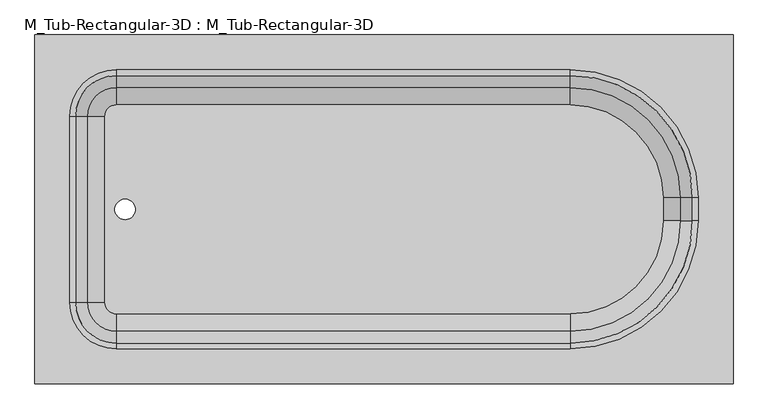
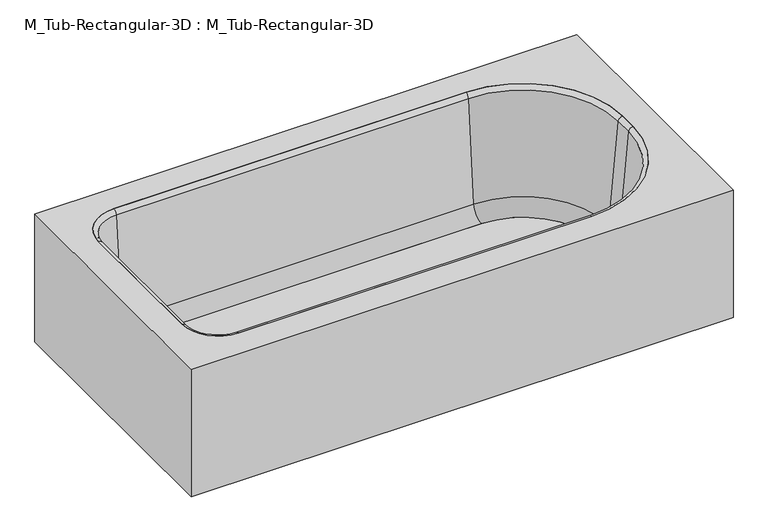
"""IFC4 building model written with IfcOpenShell, lengths in millimetres: flow terminal geometry, M_Tub-Rectangular-3D : M_Tub-Rectangular-3D."""

from ifc_helpers import new_model, si_unit, point, frame, frame_2d, origin, place, context, project, spatial, polyline, circle_curve, ellipse_curve, trimmed, segment, composite_curve, outline, extrude, source, transform, mapped, element, save
from ifc_brep_helpers import plane_surface, cylinder_surface, revolved_surface, advanced_brep


def m_tub_rectangular_3d_m_tub_rectangular_3d_c2020133(model_context):
    return source(origin(), model_context, "Body", "SolidModel", [
        advanced_brep(
        [(414.3970313, 937.0, 380.0), (-1110.6029687, 937.0, 380.0), (-1110.6029687, 175.0, 380.0), (414.3970313, 175.0, 380.0), (-932.8029687, 860.8, 380.0), (58.7970313, 860.8, 380.0), (338.1970313, 581.4, 380.0), (338.1970313, 530.6, 380.0), (58.7970313, 251.2, 380.0), (-932.8029687, 251.2, 380.0), (-1034.4029687, 352.8, 380.0), (-1034.4029687, 759.2, 380.0), (395.3470313, 917.95, 360.95), (395.3470313, 194.05, 360.95), (-1091.5529687, 194.05, 360.95), (-1091.5529687, 917.95, 360.95), (-932.8029687, 860.8, 360.95), (-1034.4029687, 759.2, 360.95), (-1034.4029687, 352.8, 360.95), (-932.8029687, 251.2, 360.95), (58.7970313, 251.2, 360.95), (338.1970313, 530.6, 360.95), (338.1970313, 581.4, 360.95), (58.7970313, 860.8, 360.95), (414.3970313, 937.0, 0.0), (-1110.6029687, 937.0, 0.0), (-1110.6029687, 175.0, 0.0), (414.3970313, 175.0, 0.0), (395.3470313, 917.95, 0.0), (-1091.5529687, 917.95, 0.0), (-1091.5529687, 194.05, 0.0), (395.3470313, 194.05, 0.0)],
        [
            (0, 1),
            (1, 2),
            (2, 3),
            (3, 0),
            (4, 5),
            (5, 6, circle_curve(frame((58.7970313, 581.4, 380.0), z_axis=(0.0, 0.0, -1.0), x_axis=(0.0, 1.0, 0.0)), 279.4)),
            (6, 7),
            (7, 8, circle_curve(frame((58.7970313, 530.6, 380.0), z_axis=(0.0, 0.0, -1.0), x_axis=(0.0, 1.0, 0.0)), 279.4)),
            (8, 9),
            (9, 10, circle_curve(frame((-932.8029687, 352.8, 380.0), z_axis=(0.0, 0.0, -1.0), x_axis=(0.0, 1.0, 0.0)), 101.6)),
            (10, 11),
            (11, 4, circle_curve(frame((-932.8029687, 759.2, 380.0), z_axis=(0.0, 0.0, -1.0), x_axis=(0.0, 1.0, 0.0)), 101.6)),
            (12, 13),
            (13, 14),
            (14, 15),
            (15, 12),
            (16, 17, circle_curve(frame((-932.8029687, 759.2, 360.95), z_axis=(0.0, 0.0, 1.0), x_axis=(0.0, 1.0, 0.0)), 101.6)),
            (17, 18),
            (18, 19, circle_curve(frame((-932.8029687, 352.8, 360.95), z_axis=(0.0, 0.0, 1.0), x_axis=(0.0, 1.0, 0.0)), 101.6)),
            (19, 20),
            (20, 21, circle_curve(frame((58.7970313, 530.6, 360.95), z_axis=(0.0, 0.0, 1.0), x_axis=(0.0, 1.0, 0.0)), 279.4)),
            (21, 22),
            (22, 23, circle_curve(frame((58.7970313, 581.4, 360.95), z_axis=(0.0, 0.0, 1.0), x_axis=(0.0, 1.0, 0.0)), 279.4)),
            (23, 16),
            (0, 24),
            (24, 25),
            (25, 1),
            (25, 26),
            (26, 2),
            (26, 27),
            (27, 3),
            (27, 24),
            (4, 16),
            (23, 5),
            (22, 6),
            (21, 7),
            (20, 8),
            (19, 9),
            (18, 10),
            (17, 11),
            (28, 29),
            (29, 30),
            (30, 31),
            (31, 28),
            (31, 13),
            (12, 28),
            (30, 14),
            (29, 15),
        ],
        [
            plane_surface(frame((-1110.6029687, 937.0, 380.0), z_axis=(0.0, 0.0, 1.0), x_axis=(-1.0, 0.0, 0.0))),
            plane_surface(frame((-1110.6029687, 937.0, 360.95), z_axis=(0.0, 0.0, -1.0), x_axis=(1.0, 0.0, 0.0))),
            plane_surface(frame((414.3970313, 937.0, 380.0), z_axis=(0.0, 1.0, 0.0), x_axis=(0.0, 0.0, -1.0))),
            plane_surface(frame((-1110.6029687, 937.0, 380.0), z_axis=(-1.0, 0.0, 0.0), x_axis=(0.0, 0.0, -1.0))),
            plane_surface(frame((-1110.6029687, 175.0, 380.0), z_axis=(0.0, -1.0, 0.0), x_axis=(0.0, 0.0, -1.0))),
            plane_surface(frame((414.3970313, 175.0, 380.0), z_axis=(1.0, 0.0, 0.0), x_axis=(0.0, 0.0, -1.0))),
            plane_surface(frame((-932.8029687, 860.8, 380.0), z_axis=(0.0, -1.0, 0.0), x_axis=(0.0, 0.0, -1.0))),
            revolved_surface(polyline([(58.7970313, 860.8, 360.95), (58.7970313, 860.8, 380.0)]), (58.7970313, 581.4, 380.0), (0.0, 0.0, -1.0)),
            plane_surface(frame((338.1970313, 581.4, 380.0), z_axis=(-1.0, 0.0, 0.0), x_axis=(0.0, 0.0, -1.0))),
            revolved_surface(polyline([(58.7970313, 810.0, 360.95), (58.7970313, 810.0, 380.0)]), (58.7970313, 530.6, 380.0), (0.0, 0.0, -1.0)),
            plane_surface(frame((58.7970313, 251.2, 380.0), z_axis=(0.0, 1.0, 0.0), x_axis=(0.0, 0.0, -1.0))),
            revolved_surface(polyline([(-932.8029687, 454.4, 360.95), (-932.8029687, 454.4, 380.0)]), (-932.8029687, 352.8, 380.0), (0.0, 0.0, -1.0)),
            plane_surface(frame((-1034.4029687, 352.8, 380.0), z_axis=(1.0, 0.0, 0.0), x_axis=(0.0, 0.0, -1.0))),
            revolved_surface(polyline([(-932.8029687, 860.8000000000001, 360.95), (-932.8029687, 860.8000000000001, 380.0)]), (-932.8029687, 759.2, 380.0), (0.0, 0.0, -1.0)),
            plane_surface(frame((-1110.6029687, 937.0, 0.0), z_axis=(0.0, 0.0, -1.0), x_axis=(1.0, 0.0, 0.0))),
            plane_surface(frame((395.3470313, 917.95, 360.95), z_axis=(-1.0, 0.0, 0.0), x_axis=(0.0, 0.0, -1.0))),
            plane_surface(frame((395.3470313, 194.05, 360.95), z_axis=(0.0, 1.0, 0.0), x_axis=(0.0, 0.0, -1.0))),
            plane_surface(frame((-1091.5529687, 194.05, 360.95), z_axis=(1.0, 0.0, 0.0), x_axis=(0.0, 0.0, -1.0))),
            plane_surface(frame((-1091.5529687, 917.95, 360.95), z_axis=(0.0, -1.0, 0.0), x_axis=(0.0, 0.0, -1.0))),
        ],
        [
            (0, [[1, 2, 3, 4], [5, 6, 7, 8, 9, 10, 11, 12]]),
            (1, [[13, 14, 15, 16], [17, 18, 19, 20, 21, 22, 23, 24]]),
            (2, [[-1, 25, 26, 27]]),
            (3, [[-2, -27, 28, 29]]),
            (4, [[-3, -29, 30, 31]]),
            (5, [[-25, -4, -31, 32]]),
            (6, [[-5, 33, -24, 34]]),
            (7, [[-6, -34, -23, 35]]),
            (8, [[-7, -35, -22, 36]]),
            (9, [[-8, -36, -21, 37]]),
            (10, [[-9, -37, -20, 38]]),
            (11, [[-10, -38, -19, 39]]),
            (12, [[-11, -39, -18, 40]]),
            (13, [[-12, -40, -17, -33]]),
            (14, [[-32, -30, -28, -26], [41, 42, 43, 44]]),
            (15, [[-44, 45, -13, 46]]),
            (16, [[-43, 47, -14, -45]]),
            (17, [[-42, 48, -15, -47]]),
            (18, [[-41, -46, -16, -48]]),
        ],
    ),
        extrude(outline(composite_curve([segment(trimmed(circle_curve(frame_2d((58.7970313, 581.4)), 202.7964741), [point((58.7970313, 784.1964741))], [point((261.5935054, 581.4))], False, "CARTESIAN"), True, "CONTINUOUS"), segment(polyline([(261.5935054, 581.4), (261.5935054, 530.6)]), True, "CONTINUOUS"), segment(trimmed(circle_curve(frame_2d((58.7970313, 530.6)), 202.7964741), [point((261.5935054, 530.6))], [point((58.7970313, 327.8035259))], False, "CARTESIAN"), True, "CONTINUOUS"), segment(polyline([(58.7970313, 327.8035259), (-932.8029687, 327.8035259)]), True, "CONTINUOUS"), segment(trimmed(circle_curve(frame_2d((-932.8029687, 352.8)), 24.9964741), [point((-932.8029687, 327.8035259))], [point((-957.7994428, 352.8))], False, "CARTESIAN"), True, "CONTINUOUS"), segment(polyline([(-957.7994428, 352.8), (-957.7994428, 759.2)]), True, "CONTINUOUS"), segment(trimmed(circle_curve(frame_2d((-932.8029687, 759.2)), 24.9964741), [point((-957.7994428, 759.2))], [point((-932.8029687, 784.1964741))], False, "CARTESIAN"), True, "CONTINUOUS"), segment(polyline([(-932.8029687, 784.1964741), (58.7970313, 784.1964741)]), True, "CONTINUOUS")], self_intersect=False), holes=[composite_curve([segment(trimmed(circle_curve(frame_2d((-913.5971625, 556.0)), 22.225), [point((-913.5971625, 578.225))], [point((-913.5971625, 533.775))], True, "CARTESIAN"), True, "CONTINUOUS"), segment(trimmed(circle_curve(frame_2d((-913.5971625, 556.0)), 22.225), [point((-913.5971625, 533.775))], [point((-913.5971625, 578.225))], True, "CARTESIAN"), True, "CONTINUOUS")], self_intersect=False)]), frame((0.0, 0.0, 15.863573), z_axis=(0.0, 0.0, 1.0), x_axis=(1.0, 0.0, 0.0)), (0.0, 0.0, 1.0), 19.05),
        advanced_brep(
        [(-995.7544608, 759.2, 69.6929392), (-932.8029687, 822.1514921, 69.6929392), (-932.8029687, 848.3220035, 368.8232535), (-1021.9249722, 759.2, 368.8232535), (-957.7994428, 759.2, 34.913573), (-932.8029687, 784.1964741, 34.913573), (-957.7994428, 759.2, 15.863573), (-932.8029687, 784.1964741, 15.863573), (-1034.4029687, 759.2, 15.863573), (-932.8029687, 860.8, 15.863573), (-1034.4029687, 759.2, 380.0), (-932.8029687, 860.8, 380.0), (-1021.9249722, 352.8, 368.8232535), (-995.7544608, 352.8, 69.6929392), (-957.7994428, 352.8, 34.913573), (-957.7994428, 352.8, 15.863573), (-1034.4029687, 352.8, 15.863573), (-1034.4029687, 352.8, 380.0), (-932.8029687, 289.8485079, 69.6929392), (-932.8029687, 263.6779965, 368.8232535), (-932.8029687, 327.8035259, 34.913573), (-932.8029687, 327.8035259, 15.863573), (-932.8029687, 251.2, 15.863573), (-932.8029687, 251.2, 380.0), (58.7970313, 263.6779965, 368.8232535), (58.7970313, 289.8485079, 69.6929392), (58.7970313, 327.8035259, 34.913573), (58.7970313, 327.8035259, 15.863573), (58.7970313, 251.2, 15.863573), (58.7970313, 251.2, 380.0), (299.5485234, 530.6, 69.6929392), (325.7190348, 530.6, 368.8232535), (261.5935054, 530.6, 34.913573), (261.5935054, 530.6, 15.863573), (338.1970313, 530.6, 15.863573), (338.1970313, 530.6, 380.0), (325.7190348, 581.4, 368.8232535), (299.5485234, 581.4, 69.6929392), (261.5935054, 581.4, 34.913573), (261.5935054, 581.4, 15.863573), (338.1970313, 581.4, 15.863573), (338.1970313, 581.4, 380.0), (58.7970313, 822.1514921, 69.6929392), (58.7970313, 848.3220035, 368.8232535), (58.7970313, 784.1964741, 34.913573), (58.7970313, 784.1964741, 15.863573), (58.7970313, 860.8, 15.863573), (58.7970313, 860.8, 380.0)],
        [
            (0, 1, circle_curve(frame((-932.8029687, 759.2, 69.6929392), z_axis=(0.0, 0.0, -1.0), x_axis=(0.0, 1.0, 0.0)), 62.9514921)),
            (1, 2),
            (2, 3, circle_curve(frame((-932.8029687, 759.2, 368.8232535), z_axis=(0.0, 0.0, 1.0), x_axis=(0.0, 1.0, 0.0)), 89.1220035)),
            (3, 0),
            (4, 5, circle_curve(frame((-932.8029687, 759.2, 34.913573), z_axis=(0.0, 0.0, -1.0), x_axis=(0.0, 1.0, 0.0)), 24.9964741)),
            (5, 1, circle_curve(frame((-932.8029687, 784.1964741, 73.013573), z_axis=(1.0, 0.0, 0.0), x_axis=(0.0, -1.0, 0.0)), 38.1)),
            (0, 4, circle_curve(frame((-957.7994428, 759.2, 73.013573), z_axis=(0.0, -1.0, 0.0), x_axis=(1.0, 0.0, 0.0)), 38.1)),
            (6, 7, circle_curve(frame((-932.8029687, 759.2, 15.863573), z_axis=(0.0, 0.0, -1.0), x_axis=(0.0, 1.0, 0.0)), 24.9964741)),
            (7, 5),
            (4, 6),
            (8, 9, circle_curve(frame((-932.8029687, 759.2, 15.863573), z_axis=(0.0, 0.0, -1.0), x_axis=(0.0, 1.0, 0.0)), 101.6)),
            (9, 7),
            (6, 8),
            (10, 11, circle_curve(frame((-932.8029687, 759.2, 380.0), z_axis=(0.0, 0.0, -1.0), x_axis=(0.0, 1.0, 0.0)), 101.6)),
            (11, 9),
            (8, 10),
            (2, 11, circle_curve(frame((-932.8029687, 860.8, 367.4462547), z_axis=(-1.0, 0.0, 0.0), x_axis=(0.0, -1.0, 0.0)), 12.5537453)),
            (10, 3, circle_curve(frame((-1034.4029687, 759.2, 367.4462547), z_axis=(0.0, 1.0, 0.0), x_axis=(1.0, 0.0, 0.0)), 12.5537453)),
            (3, 12),
            (12, 13),
            (13, 0),
            (13, 14, circle_curve(frame((-957.7994428, 352.8, 73.013573), z_axis=(0.0, -1.0, 0.0), x_axis=(1.0, 0.0, 0.0)), 38.1)),
            (14, 4),
            (14, 15),
            (15, 6),
            (15, 16),
            (16, 8),
            (16, 17),
            (17, 10),
            (17, 12, circle_curve(frame((-1034.4029687, 352.8, 367.4462547), z_axis=(0.0, 1.0, 0.0), x_axis=(1.0, 0.0, 0.0)), 12.5537453)),
            (18, 13, circle_curve(frame((-932.8029687, 352.8, 69.6929392), z_axis=(0.0, 0.0, -1.0), x_axis=(-1.0, 0.0, 0.0)), 62.9514921)),
            (12, 19, circle_curve(frame((-932.8029687, 352.8, 368.8232535), z_axis=(0.0, 0.0, 1.0), x_axis=(-1.0, 0.0, 0.0)), 89.1220035)),
            (19, 18),
            (20, 14, circle_curve(frame((-932.8029687, 352.8, 34.913573), z_axis=(0.0, 0.0, -1.0), x_axis=(-1.0, 0.0, 0.0)), 24.9964741)),
            (18, 20, circle_curve(frame((-932.8029687, 327.8035259, 73.013573), z_axis=(1.0, 0.0, 0.0), x_axis=(0.0, 1.0, 0.0)), 38.1)),
            (21, 15, circle_curve(frame((-932.8029687, 352.8, 15.863573), z_axis=(0.0, 0.0, -1.0), x_axis=(-1.0, 0.0, 0.0)), 24.9964741)),
            (20, 21),
            (22, 16, circle_curve(frame((-932.8029687, 352.8, 15.863573), z_axis=(0.0, 0.0, -1.0), x_axis=(-1.0, 0.0, 0.0)), 101.6)),
            (21, 22),
            (23, 17, circle_curve(frame((-932.8029687, 352.8, 380.0), z_axis=(0.0, 0.0, -1.0), x_axis=(-1.0, 0.0, 0.0)), 101.6)),
            (22, 23),
            (23, 19, circle_curve(frame((-932.8029687, 251.2, 367.4462547), z_axis=(-1.0, 0.0, 0.0), x_axis=(0.0, 1.0, 0.0)), 12.5537453)),
            (19, 24),
            (24, 25),
            (25, 18),
            (25, 26, circle_curve(frame((58.7970313, 327.8035259, 73.013573), z_axis=(1.0, 0.0, 0.0), x_axis=(0.0, 1.0, 0.0)), 38.1)),
            (26, 20),
            (26, 27),
            (27, 21),
            (27, 28),
            (28, 22),
            (28, 29),
            (29, 23),
            (29, 24, circle_curve(frame((58.7970313, 251.2, 367.4462547), z_axis=(-1.0, 0.0, 0.0), x_axis=(0.0, 1.0, 0.0)), 12.5537453)),
            (30, 25, circle_curve(frame((58.7970313, 530.6, 69.6929392), z_axis=(0.0, 0.0, -1.0), x_axis=(0.0, -1.0, 0.0)), 240.7514921)),
            (24, 31, circle_curve(frame((58.7970313, 530.6, 368.8232535), z_axis=(0.0, 0.0, 1.0), x_axis=(0.0, -1.0, 0.0)), 266.9220035)),
            (31, 30),
            (32, 26, circle_curve(frame((58.7970313, 530.6, 34.913573), z_axis=(0.0, 0.0, -1.0), x_axis=(0.0, -1.0, 0.0)), 202.7964741)),
            (30, 32, circle_curve(frame((261.5935054, 530.6, 73.013573), z_axis=(0.0, 1.0, 0.0), x_axis=(-1.0, 0.0, 0.0)), 38.1)),
            (33, 27, circle_curve(frame((58.7970313, 530.6, 15.863573), z_axis=(0.0, 0.0, -1.0), x_axis=(0.0, -1.0, 0.0)), 202.7964741)),
            (32, 33),
            (34, 28, circle_curve(frame((58.7970313, 530.6, 15.863573), z_axis=(0.0, 0.0, -1.0), x_axis=(0.0, -1.0, 0.0)), 279.4)),
            (33, 34),
            (35, 29, circle_curve(frame((58.7970313, 530.6, 380.0), z_axis=(0.0, 0.0, -1.0), x_axis=(0.0, -1.0, 0.0)), 279.4)),
            (34, 35),
            (35, 31, circle_curve(frame((338.1970313, 530.6, 367.4462547), z_axis=(0.0, -1.0, 0.0), x_axis=(-1.0, 0.0, 0.0)), 12.5537453)),
            (31, 36),
            (36, 37),
            (37, 30),
            (37, 38, circle_curve(frame((261.5935054, 581.4, 73.013573), z_axis=(0.0, 1.0, 0.0), x_axis=(-1.0, 0.0, 0.0)), 38.1)),
            (38, 32),
            (38, 39),
            (39, 33),
            (39, 40),
            (40, 34),
            (40, 41),
            (41, 35),
            (41, 36, circle_curve(frame((338.1970313, 581.4, 367.4462547), z_axis=(0.0, -1.0, 0.0), x_axis=(-1.0, 0.0, 0.0)), 12.5537453)),
            (42, 37, circle_curve(frame((58.7970313, 581.4, 69.6929392), z_axis=(0.0, 0.0, -1.0), x_axis=(1.0, 0.0, 0.0)), 240.7514921)),
            (36, 43, circle_curve(frame((58.7970313, 581.4, 368.8232535), z_axis=(0.0, 0.0, 1.0), x_axis=(1.0, 0.0, 0.0)), 266.9220035)),
            (43, 42),
            (44, 38, circle_curve(frame((58.7970313, 581.4, 34.913573), z_axis=(0.0, 0.0, -1.0), x_axis=(1.0, 0.0, 0.0)), 202.7964741)),
            (42, 44, circle_curve(frame((58.7970313, 784.1964741, 73.013573), z_axis=(-1.0, 0.0, 0.0), x_axis=(0.0, -1.0, 0.0)), 38.1)),
            (45, 39, circle_curve(frame((58.7970313, 581.4, 15.863573), z_axis=(0.0, 0.0, -1.0), x_axis=(1.0, 0.0, 0.0)), 202.7964741)),
            (44, 45),
            (46, 40, circle_curve(frame((58.7970313, 581.4, 15.863573), z_axis=(0.0, 0.0, -1.0), x_axis=(1.0, 0.0, 0.0)), 279.4)),
            (45, 46),
            (47, 41, circle_curve(frame((58.7970313, 581.4, 380.0), z_axis=(0.0, 0.0, -1.0), x_axis=(1.0, 0.0, 0.0)), 279.4)),
            (46, 47),
            (47, 43, circle_curve(frame((58.7970313, 860.8, 367.4462547), z_axis=(1.0, 0.0, 0.0), x_axis=(0.0, -1.0, 0.0)), 12.5537453)),
            (43, 2),
            (1, 42),
            (5, 44),
            (7, 45),
            (9, 46),
            (11, 47),
        ],
        [
            revolved_surface(polyline([(-932.8029687, 848.3220035, 368.8232535), (-932.8029687, 822.1514921, 69.6929392)]), (-932.8029687, 759.2, 380.0), (0.0, 0.0, 1.0)),
            revolved_surface(trimmed(ellipse_curve(frame((-932.8029687, 784.1964741, 73.013573), z_axis=(-1.0, 0.0, 0.0), x_axis=(0.0, -1.0, 0.0)), 38.1, 38.1), [point((-932.8029687, 822.1514921, 69.6929392))], [point((-932.8029687, 784.1964741, 34.913573))], True, "CARTESIAN"), (-932.8029687, 759.2, 380.0), (0.0, 0.0, 1.0)),
            revolved_surface(polyline([(-932.8029687, 784.1964741, 34.913572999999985), (-932.8029687, 784.1964741, 15.863572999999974)]), (-932.8029687, 759.2, 380.0), (0.0, 0.0, 1.0)),
            plane_surface(frame((-932.8029687, 759.2, 15.863573), z_axis=(0.0, 0.0, -1.0), x_axis=(0.0, 1.0, 0.0))),
            cylinder_surface(frame((-932.8029687, 759.2, 380.0), z_axis=(0.0, 0.0, 1.0), x_axis=(0.0, 1.0, 0.0)), 101.6),
            revolved_surface(trimmed(ellipse_curve(frame((-932.8029687, 860.8, 367.4462547), z_axis=(1.0, 0.0, 0.0), x_axis=(0.0, -1.0, 0.0)), 12.5537453, 12.5537453), [point((-932.8029687, 860.8, 380.0))], [point((-932.8029687, 848.3220035, 368.8232535))], True, "CARTESIAN"), (-932.8029687, 759.2, 380.0), (0.0, 0.0, 1.0)),
            plane_surface(frame((-1021.9249722, 759.2, 368.8232535), z_axis=(0.9961946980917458, 0.0, 0.08715574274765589), x_axis=(0.0, -1.0, 0.0))),
            revolved_surface(polyline([(-919.6994427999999, 352.8, 73.013573), (-919.6994427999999, 759.2, 73.013573)]), (-957.7994428, 759.2, 73.013573), (0.0, -1.0, 0.0)),
            plane_surface(frame((-957.7994428, 759.2, 34.913573), z_axis=(1.0, 0.0, 0.0), x_axis=(0.0, -1.0, 0.0))),
            plane_surface(frame((-957.7994428, 759.2, 15.863573), z_axis=(0.0, 0.0, -1.0), x_axis=(0.0, -1.0, 0.0))),
            plane_surface(frame((-1034.4029687, 759.2, 15.863573), z_axis=(-1.0, 0.0, 0.0), x_axis=(0.0, -1.0, 0.0))),
            cylinder_surface(frame((-1034.4029687, 759.2, 367.4462547), z_axis=(0.0, 1.0, 0.0), x_axis=(1.0, 0.0, 0.0)), 12.5537453),
            revolved_surface(polyline([(-1021.9249722, 352.8, 368.8232535), (-995.7544608, 352.8, 69.6929392)]), (-932.8029687, 352.8, 380.0), (0.0, 0.0, 1.0)),
            revolved_surface(trimmed(ellipse_curve(frame((-957.7994428, 352.8, 73.013573), z_axis=(0.0, -1.0, 0.0), x_axis=(1.0, 0.0, 0.0)), 38.1, 38.1), [point((-995.7544608, 352.8, 69.6929392))], [point((-957.7994428, 352.8, 34.913573))], True, "CARTESIAN"), (-932.8029687, 352.8, 380.0), (0.0, 0.0, 1.0)),
            revolved_surface(polyline([(-957.7994428, 352.8, 34.913572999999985), (-957.7994428, 352.8, 15.863572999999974)]), (-932.8029687, 352.8, 380.0), (0.0, 0.0, 1.0)),
            plane_surface(frame((-932.8029687, 352.8, 15.863573), z_axis=(0.0, 0.0, -1.0), x_axis=(-1.0, 0.0, 0.0))),
            cylinder_surface(frame((-932.8029687, 352.8, 380.0), z_axis=(0.0, 0.0, 1.0), x_axis=(-1.0, 0.0, 0.0)), 101.6),
            revolved_surface(trimmed(ellipse_curve(frame((-1034.4029687, 352.8, 367.4462547), z_axis=(0.0, 1.0, 0.0), x_axis=(1.0, 0.0, 0.0)), 12.5537453, 12.5537453), [point((-1034.4029687, 352.8, 380.0))], [point((-1021.9249722, 352.8, 368.8232535))], True, "CARTESIAN"), (-932.8029687, 352.8, 380.0), (0.0, 0.0, 1.0)),
            plane_surface(frame((-932.8029687, 263.6779965, 368.8232535), z_axis=(0.0, 0.9961946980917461, 0.08715574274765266), x_axis=(1.0, 0.0, 0.0))),
            revolved_surface(polyline([(58.79703129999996, 365.90352590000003, 73.013573), (-932.8029687, 365.90352590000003, 73.013573)]), (-932.8029687, 327.8035259, 73.013573), (1.0, 0.0, 0.0)),
            plane_surface(frame((-932.8029687, 327.8035259, 34.913573), z_axis=(0.0, 1.0, 0.0), x_axis=(1.0, 0.0, 0.0))),
            plane_surface(frame((-932.8029687, 327.8035259, 15.863573), z_axis=(0.0, 0.0, -1.0), x_axis=(1.0, 0.0, 0.0))),
            plane_surface(frame((-932.8029687, 251.2, 15.863573), z_axis=(0.0, -1.0, 0.0), x_axis=(1.0, 0.0, 0.0))),
            cylinder_surface(frame((-932.8029687, 251.2, 367.4462547), z_axis=(-1.0, 0.0, 0.0), x_axis=(0.0, 1.0, 0.0)), 12.5537453),
            revolved_surface(polyline([(58.7970313, 263.6779965, 368.8232535), (58.7970313, 289.8485079, 69.6929392)]), (58.7970313, 530.6, 380.0), (0.0, 0.0, 1.0)),
            revolved_surface(trimmed(ellipse_curve(frame((58.7970313, 327.8035259, 73.013573), z_axis=(1.0, 0.0, 0.0), x_axis=(0.0, 1.0, 0.0)), 38.1, 38.1), [point((58.7970313, 289.8485079, 69.6929392))], [point((58.7970313, 327.8035259, 34.913573))], True, "CARTESIAN"), (58.7970313, 530.6, 380.0), (0.0, 0.0, 1.0)),
            revolved_surface(polyline([(58.7970313, 327.8035259, 34.913572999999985), (58.7970313, 327.8035259, 15.863572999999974)]), (58.7970313, 530.6, 380.0), (0.0, 0.0, 1.0)),
            plane_surface(frame((58.7970313, 530.6, 15.863573), z_axis=(0.0, 0.0, -1.0), x_axis=(0.0, -1.0, 0.0))),
            cylinder_surface(frame((58.7970313, 530.6, 380.0), z_axis=(0.0, 0.0, 1.0), x_axis=(0.0, -1.0, 0.0)), 279.4),
            revolved_surface(trimmed(ellipse_curve(frame((58.7970313, 251.2, 367.4462547), z_axis=(-1.0, 0.0, 0.0), x_axis=(0.0, 1.0, 0.0)), 12.5537453, 12.5537453), [point((58.7970313, 251.2, 380.0))], [point((58.7970313, 263.6779965, 368.8232535))], True, "CARTESIAN"), (58.7970313, 530.6, 380.0), (0.0, 0.0, 1.0)),
            plane_surface(frame((325.7190348, 530.6, 368.8232535), z_axis=(-0.9961946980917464, 0.0, 0.08715574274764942), x_axis=(0.0, 1.0, 0.0))),
            revolved_surface(polyline([(223.49350540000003, 581.4, 73.013573), (223.49350540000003, 530.6, 73.013573)]), (261.5935054, 530.6, 73.013573), (0.0, 1.0, 0.0)),
            plane_surface(frame((261.5935054, 530.6, 34.913573), z_axis=(-1.0, 0.0, 0.0), x_axis=(0.0, 1.0, 0.0))),
            plane_surface(frame((261.5935054, 530.6, 15.863573), z_axis=(0.0, 0.0, -1.0), x_axis=(0.0, 1.0, 0.0))),
            plane_surface(frame((338.1970313, 530.6, 15.863573), z_axis=(1.0, 0.0, 0.0), x_axis=(0.0, 1.0, 0.0))),
            cylinder_surface(frame((338.1970313, 530.6, 367.4462547), z_axis=(0.0, -1.0, 0.0), x_axis=(-1.0, 0.0, 0.0)), 12.5537453),
            revolved_surface(polyline([(325.7190348, 581.4, 368.8232535), (299.5485234, 581.4, 69.6929392)]), (58.7970313, 581.4, 380.0), (0.0, 0.0, 1.0)),
            revolved_surface(trimmed(ellipse_curve(frame((261.5935054, 581.4, 73.013573), z_axis=(0.0, 1.0, 0.0), x_axis=(-1.0, 0.0, 0.0)), 38.1, 38.1), [point((299.5485234, 581.4, 69.6929392))], [point((261.5935054, 581.4, 34.913573))], True, "CARTESIAN"), (58.7970313, 581.4, 380.0), (0.0, 0.0, 1.0)),
            revolved_surface(polyline([(261.5935054, 581.4, 34.913572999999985), (261.5935054, 581.4, 15.863572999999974)]), (58.7970313, 581.4, 380.0), (0.0, 0.0, 1.0)),
            plane_surface(frame((58.7970313, 581.4, 15.863573), z_axis=(0.0, 0.0, -1.0), x_axis=(1.0, 0.0, 0.0))),
            cylinder_surface(frame((58.7970313, 581.4, 380.0), z_axis=(0.0, 0.0, 1.0), x_axis=(1.0, 0.0, 0.0)), 279.4),
            revolved_surface(trimmed(ellipse_curve(frame((338.1970313, 581.4, 367.4462547), z_axis=(0.0, -1.0, 0.0), x_axis=(-1.0, 0.0, 0.0)), 12.5537453, 12.5537453), [point((338.1970313, 581.4, 380.0))], [point((325.7190348, 581.4, 368.8232535))], True, "CARTESIAN"), (58.7970313, 581.4, 380.0), (0.0, 0.0, 1.0)),
            plane_surface(frame((58.7970313, 848.3220035, 368.8232535), z_axis=(0.0, -0.9961946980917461, 0.08715574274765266), x_axis=(-1.0, 0.0, 0.0))),
            revolved_surface(polyline([(-932.8029687, 746.0964741, 73.013573), (58.7970313, 746.0964741, 73.013573)]), (58.7970313, 784.1964741, 73.013573), (-1.0, 0.0, 0.0)),
            plane_surface(frame((58.7970313, 784.1964741, 34.913573), z_axis=(0.0, -1.0, 0.0), x_axis=(-1.0, 0.0, 0.0))),
            plane_surface(frame((58.7970313, 784.1964741, 15.863573), z_axis=(0.0, 0.0, -1.0), x_axis=(-1.0, 0.0, 0.0))),
            plane_surface(frame((58.7970313, 860.8, 15.863573), z_axis=(0.0, 1.0, 0.0), x_axis=(-1.0, 0.0, 0.0))),
            cylinder_surface(frame((58.7970313, 860.8, 367.4462547), z_axis=(1.0, 0.0, 0.0), x_axis=(0.0, -1.0, 0.0)), 12.5537453),
        ],
        [
            (0, [[1, 2, 3, 4]]),
            (1, [[5, 6, -1, 7]]),
            (2, [[8, 9, -5, 10]]),
            (3, [[11, 12, -8, 13]]),
            (4, [[14, 15, -11, 16]]),
            (5, [[-3, 17, -14, 18]]),
            (6, [[-4, 19, 20, 21]]),
            (7, [[-7, -21, 22, 23]]),
            (8, [[-10, -23, 24, 25]]),
            (9, [[-13, -25, 26, 27]]),
            (10, [[-16, -27, 28, 29]]),
            (11, [[-18, -29, 30, -19]]),
            (12, [[31, -20, 32, 33]]),
            (13, [[34, -22, -31, 35]]),
            (14, [[36, -24, -34, 37]]),
            (15, [[38, -26, -36, 39]]),
            (16, [[40, -28, -38, 41]]),
            (17, [[-32, -30, -40, 42]]),
            (18, [[-33, 43, 44, 45]]),
            (19, [[-35, -45, 46, 47]]),
            (20, [[-37, -47, 48, 49]]),
            (21, [[-39, -49, 50, 51]]),
            (22, [[-41, -51, 52, 53]]),
            (23, [[-42, -53, 54, -43]]),
            (24, [[55, -44, 56, 57]]),
            (25, [[58, -46, -55, 59]]),
            (26, [[60, -48, -58, 61]]),
            (27, [[62, -50, -60, 63]]),
            (28, [[64, -52, -62, 65]]),
            (29, [[-56, -54, -64, 66]]),
            (30, [[-57, 67, 68, 69]]),
            (31, [[-59, -69, 70, 71]]),
            (32, [[-61, -71, 72, 73]]),
            (33, [[-63, -73, 74, 75]]),
            (34, [[-65, -75, 76, 77]]),
            (35, [[-66, -77, 78, -67]]),
            (36, [[79, -68, 80, 81]]),
            (37, [[82, -70, -79, 83]]),
            (38, [[84, -72, -82, 85]]),
            (39, [[86, -74, -84, 87]]),
            (40, [[88, -76, -86, 89]]),
            (41, [[-80, -78, -88, 90]]),
            (42, [[-81, 91, -2, 92]]),
            (43, [[-83, -92, -6, 93]]),
            (44, [[-85, -93, -9, 94]]),
            (45, [[-87, -94, -12, 95]]),
            (46, [[-89, -95, -15, 96]]),
            (47, [[-90, -96, -17, -91]]),
        ],
    ),
    ])


if __name__ == "__main__":
    model = new_model("IFC4")
    model_context = context("Model", 3, world=origin())
    ifc_project = project(units=[si_unit("LENGTHUNIT", "METRE", prefix="MILLI")], contexts=[model_context])
    site = spatial("IfcSite", under=ifc_project)
    building = spatial("IfcBuilding", under=site)
    placement = place(None, origin())
    m_tub_rectangular_3d_m_tub_rectangular_3d_shape = m_tub_rectangular_3d_m_tub_rectangular_3d_c2020133(model_context)
    element("IfcFlowTerminal", 1, ObjectType="M_Tub-Rectangular-3D : M_Tub-Rectangular-3D", at=placement, inside=building, context=model_context, shape_type="MappedRepresentation", body=[
        mapped(m_tub_rectangular_3d_m_tub_rectangular_3d_shape, transform((0.0, 0.0, 0.0), x_axis=(1.0, 0.0, 0.0), y_axis=(0.0, 1.0, 0.0), z_axis=(0.0, 0.0, 1.0))),
    ])
    save(model, "model.ifc")
